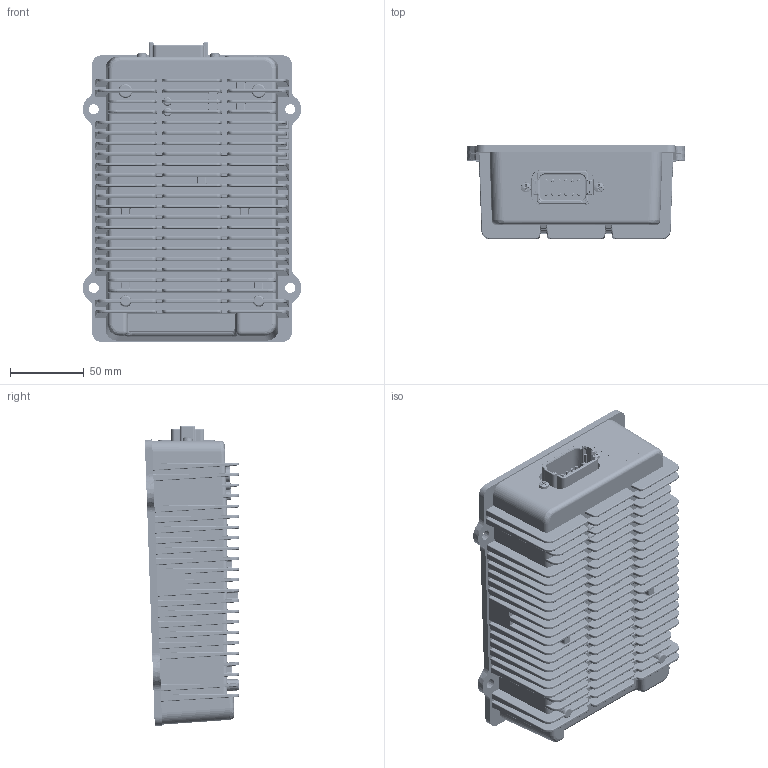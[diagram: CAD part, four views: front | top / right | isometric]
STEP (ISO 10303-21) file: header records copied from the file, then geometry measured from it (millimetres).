
FILE_DESCRIPTION (( 'STEP AP203' ), '1' );
FILE_NAME ('AX080310.STEP', '2026-07-06T16:52:43', ( '' ), ( '' ), 'SwSTEP 2.0', 'SolidWorks 2023', '' );
FILE_SCHEMA (( 'CONFIG_CONTROL_DESIGN' ));
Length unit declared in the file: millimetre
Products named in the file (11): AX080310; PL-619X0625SSPPU; DEUT DT13-12PA; LBM-SERIAL-01-R3; CST-24023-01-R3; LBM-AX080310-01-R1; MS-M5CX12SSFTU 92703A162_18-8 Stainless Steel Torx Flat Head Screws; MG-24023-01 for STEP; DT13-12PA gasket; CTP-12019-02-R1; GAS-12019-01-R2
Assembly tree (16 placements, depth 3):
  AX080310
    MG-24023-01 for STEP
      DEUT DT13-12PA
      CST-24023-01-R3
      PL-619X0625SSPPU  x2
      CTP-12019-02-R1
      GAS-12019-01-R2
      MS-M5CX12SSFTU 92703A162_18-8 Stainless Steel Torx Flat Head Screws  x6
      DT13-12PA gasket
      LBM-SERIAL-01-R3
    LBM-AX080310-01-R1
Bounding box: 147.93 x 63.95 x 202.82 mm (x, y, z)
Volume: 480438.4 mm3; surface area: 253047.5 mm2
Topology: 15 solids, 15 shells, 6317 faces, 16291 edges, 10034 vertices
Faces by surface type: cylinder 2881, plane 1577, bspline 1261, cone 344, torus 232, sphere 22
Entity records: 264524 total; most frequent: CARTESIAN_POINT 136902, ORIENTED_EDGE 30278, DIRECTION 20446, EDGE_CURVE 15139, VERTEX_POINT 9405, VECTOR 7010, LINE 7010, AXIS2_PLACEMENT_3D 6718
